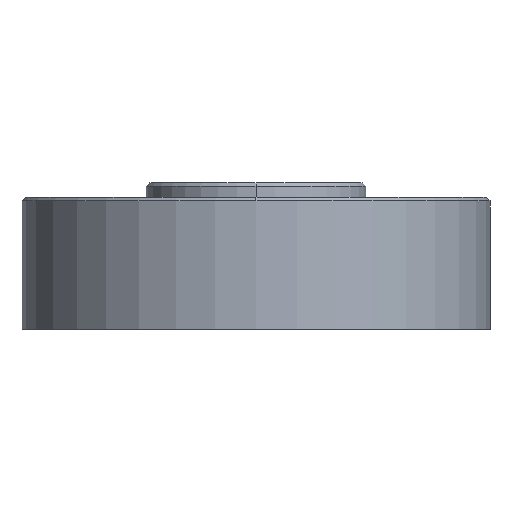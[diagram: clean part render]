
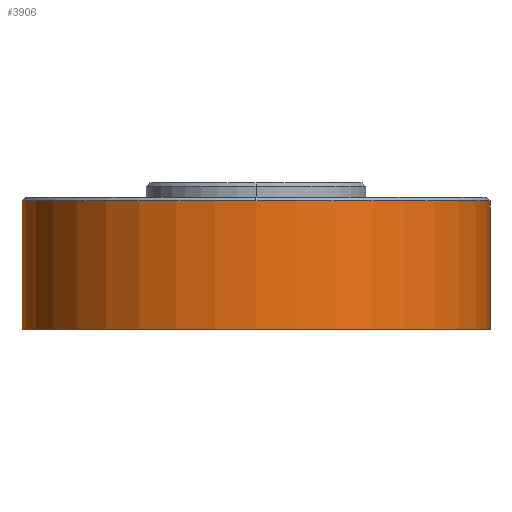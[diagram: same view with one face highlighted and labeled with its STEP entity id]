
A CAD part, left-side view. The second image highlights one B-rep face of the part: STEP entity #3906.
In plain terms, the highlighted cylindrical face has radius 101.575 mm (diameter 203.149 mm), a partial arc.
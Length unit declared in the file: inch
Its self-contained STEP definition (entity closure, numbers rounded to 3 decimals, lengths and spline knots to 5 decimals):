
#50 = LINE ( 'NONE', #51, #52 ) ;
#51 = CARTESIAN_POINT ( 'NONE',  ( 0., -3.999, -0.06 ) ) ;
#52 = VECTOR ( 'NONE', #53, 39.37008 ) ;
#53 = DIRECTION ( 'NONE',  ( 0., 0., -1. ) ) ;
#230 = EDGE_CURVE ( 'NONE', #1152, #5061, #5626, .T. ) ;
#1152 = VERTEX_POINT ( 'NONE', #6014 ) ;
#1190 = CARTESIAN_POINT ( 'NONE',  ( 0., -3.999, -2.249 ) ) ;
#1355 = CARTESIAN_POINT ( 'NONE',  ( 0., -3.999, -0.06 ) ) ;
#1719 = CIRCLE ( 'NONE', #1720, 3.999 ) ;
#1720 = AXIS2_PLACEMENT_3D ( 'NONE', #1721, #1722, #1723 ) ;
#1721 = CARTESIAN_POINT ( 'NONE',  ( 0., 0., -2.249 ) ) ;
#1722 = DIRECTION ( 'NONE',  ( 0., 0., -1. ) ) ;
#1723 = DIRECTION ( 'NONE',  ( -1., 0., 0. ) ) ;
#2505 = ORIENTED_EDGE ( 'NONE', *, *, #4418, .F. ) ;
#2591 = LINE ( 'NONE', #2592, #2593 ) ;
#2592 = CARTESIAN_POINT ( 'NONE',  ( 0., 3.999, -0.06 ) ) ;
#2593 = VECTOR ( 'NONE', #2594, 39.37008 ) ;
#2594 = DIRECTION ( 'NONE',  ( 0., 0., -1. ) ) ;
#3622 = VERTEX_POINT ( 'NONE', #7539 ) ;
#3770 = ORIENTED_EDGE ( 'NONE', *, *, #4064, .F. ) ;
#3869 = EDGE_LOOP ( 'NONE', ( #3770, #5297, #5420, #4221, #5343, #2505 ) ) ;
#3906 = ADVANCED_FACE ( 'NONE', ( #8852 ), #8853, .T. ) ;
#4064 = EDGE_CURVE ( 'NONE', #4335, #4302, #50, .T. ) ;
#4221 = ORIENTED_EDGE ( 'NONE', *, *, #9288, .T. ) ;
#4302 = VERTEX_POINT ( 'NONE', #1190 ) ;
#4335 = VERTEX_POINT ( 'NONE', #1355 ) ;
#4418 = EDGE_CURVE ( 'NONE', #4302, #1152, #1719, .T. ) ;
#5061 = VERTEX_POINT ( 'NONE', #6721 ) ;
#5244 = EDGE_CURVE ( 'NONE', #4335, #3622, #7565, .T. ) ;
#5297 = ORIENTED_EDGE ( 'NONE', *, *, #5244, .T. ) ;
#5343 = ORIENTED_EDGE ( 'NONE', *, *, #230, .F. ) ;
#5345 = EDGE_CURVE ( 'NONE', #3622, #5458, #7988, .T. ) ;
#5420 = ORIENTED_EDGE ( 'NONE', *, *, #5345, .T. ) ;
#5458 = VERTEX_POINT ( 'NONE', #8680 ) ;
#5626 = CIRCLE ( 'NONE', #5627, 3.999 ) ;
#5627 = AXIS2_PLACEMENT_3D ( 'NONE', #5628, #5629, #5630 ) ;
#5628 = CARTESIAN_POINT ( 'NONE',  ( 0., 0., -2.249 ) ) ;
#5629 = DIRECTION ( 'NONE',  ( 0., 0., -1. ) ) ;
#5630 = DIRECTION ( 'NONE',  ( -1., 0., 0. ) ) ;
#6014 = CARTESIAN_POINT ( 'NONE',  ( -3.999, 0., -2.249 ) ) ;
#6721 = CARTESIAN_POINT ( 'NONE',  ( 0., 3.999, -2.249 ) ) ;
#7539 = CARTESIAN_POINT ( 'NONE',  ( -3.999, 0., -0.06 ) ) ;
#7565 = CIRCLE ( 'NONE', #7566, 3.999 ) ;
#7566 = AXIS2_PLACEMENT_3D ( 'NONE', #7567, #7568, #7569 ) ;
#7567 = CARTESIAN_POINT ( 'NONE',  ( 0., 0., -0.06 ) ) ;
#7568 = DIRECTION ( 'NONE',  ( 0., 0., -1. ) ) ;
#7569 = DIRECTION ( 'NONE',  ( 0., 1., 0. ) ) ;
#7988 = CIRCLE ( 'NONE', #7991, 3.999 ) ;
#7991 = AXIS2_PLACEMENT_3D ( 'NONE', #7992, #7993, #7994 ) ;
#7992 = CARTESIAN_POINT ( 'NONE',  ( 0., 0., -0.06 ) ) ;
#7993 = DIRECTION ( 'NONE',  ( 0., 0., -1. ) ) ;
#7994 = DIRECTION ( 'NONE',  ( 0., 1., 0. ) ) ;
#8680 = CARTESIAN_POINT ( 'NONE',  ( 0., 3.999, -0.06 ) ) ;
#8852 = FACE_OUTER_BOUND ( 'NONE', #3869, .T. ) ;
#8853 = CYLINDRICAL_SURFACE ( 'NONE', #8854, 3.999 ) ;
#8854 = AXIS2_PLACEMENT_3D ( 'NONE', #8855, #8856, #8857 ) ;
#8855 = CARTESIAN_POINT ( 'NONE',  ( 0., 0., -0.06 ) ) ;
#8856 = DIRECTION ( 'NONE',  ( 0., 0., -1. ) ) ;
#8857 = DIRECTION ( 'NONE',  ( 0., 1., 0. ) ) ;
#9288 = EDGE_CURVE ( 'NONE', #5458, #5061, #2591, .T. ) ;
